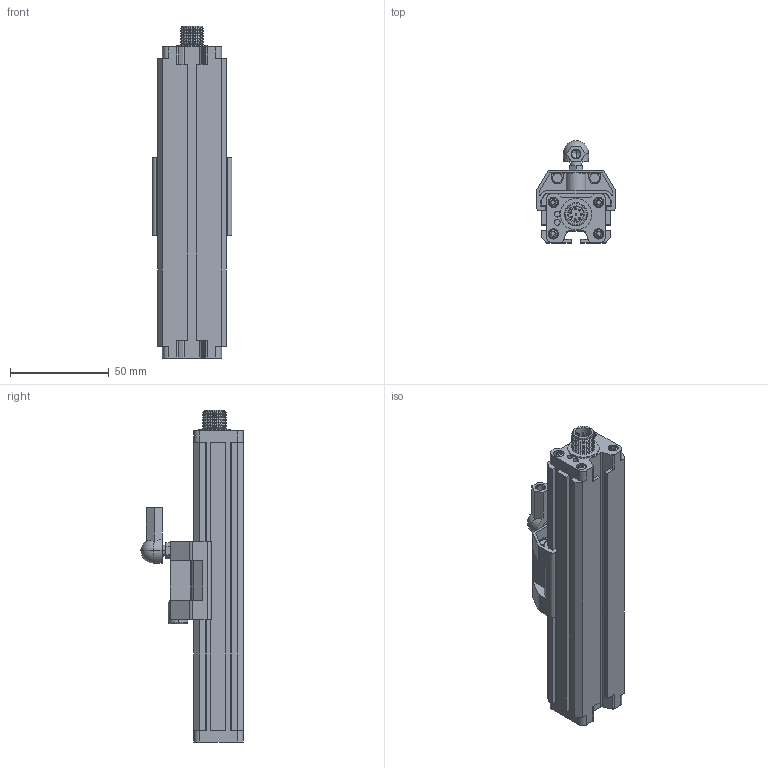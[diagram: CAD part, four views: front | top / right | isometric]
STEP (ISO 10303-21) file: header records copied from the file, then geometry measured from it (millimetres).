
FILE_DESCRIPTION (( 'STEP AP203' ), '1' );
FILE_NAME ('Li100-Q25L-H1.step', '2017-10-11T20:41:57', ( '' ), ( '' ), 'SwSTEP 2.0', 'SolidWorks 2015', '' );
FILE_SCHEMA (( 'CONFIG_CONTROL_DESIGN' ));
Length unit declared in the file: millimetre
Products named in the file (2): Li100-Q25L-H1
Bounding box: 40.4 x 51.9 x 168.5 mm (x, y, z)
Volume: 136824.3 mm3; surface area: 39298 mm2
Topology: 2 solids, 5 shells, 676 faces, 1755 edges, 1123 vertices
Faces by surface type: plane 280, cylinder 245, cone 92, torus 33, sphere 18, bspline 8
Entity records: 20933 total; most frequent: CARTESIAN_POINT 3962, DIRECTION 3699, ORIENTED_EDGE 3434, EDGE_CURVE 1717, AXIS2_PLACEMENT_3D 1377, VERTEX_POINT 1106, VECTOR 945, LINE 945
